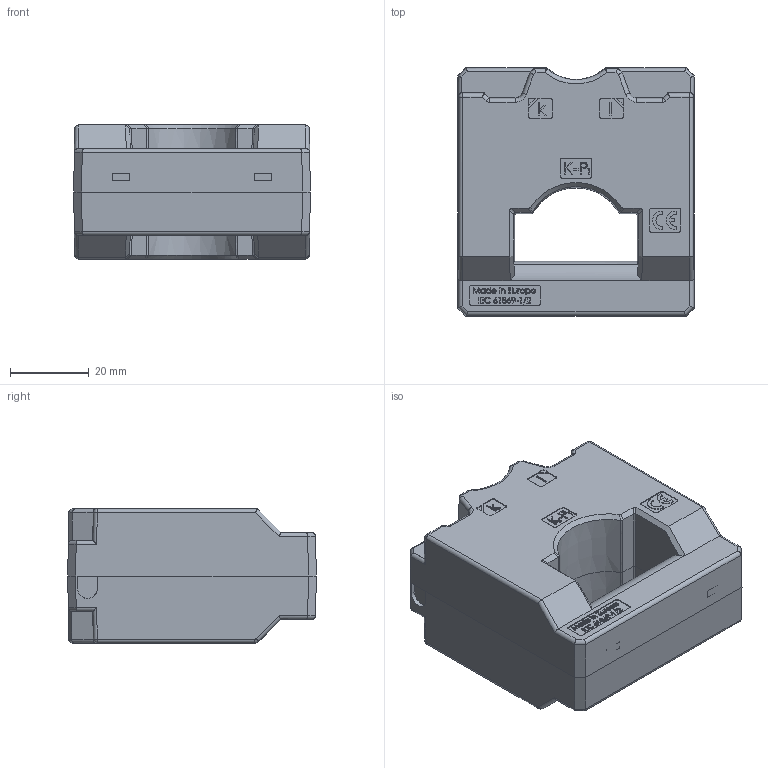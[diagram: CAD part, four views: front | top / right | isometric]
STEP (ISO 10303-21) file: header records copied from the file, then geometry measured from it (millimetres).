
FILE_DESCRIPTION (( 'STEP AP214' ), '1' );
FILE_NAME ('ASKL31.34_vereinfacht.STEP', '2014-03-18T07:22:54', ( 'alex' ), ( '' ), 'SwSTEP 2.0', 'SolidWorks 2013', '' );
FILE_SCHEMA (( 'AUTOMOTIVE_DESIGN' ));
Products named in the file (1): ASKL31.34_vereinfacht
Bounding box: 60 x 63 x 34 mm (x, y, z)
Volume: 95413.5 mm3; surface area: 18816.7 mm2
Topology: 1 solids, 9 shells, 1244 faces, 3276 edges, 2143 vertices
Faces by surface type: plane 691, bspline 372, cylinder 166, cone 8, sphere 4, torus 3
Entity records: 54712 total; most frequent: CARTESIAN_POINT 26901, ORIENTED_EDGE 6536, DIRECTION 4321, EDGE_CURVE 3268, VECTOR 2147, LINE 2147, VERTEX_POINT 2143, EDGE_LOOP 1353
